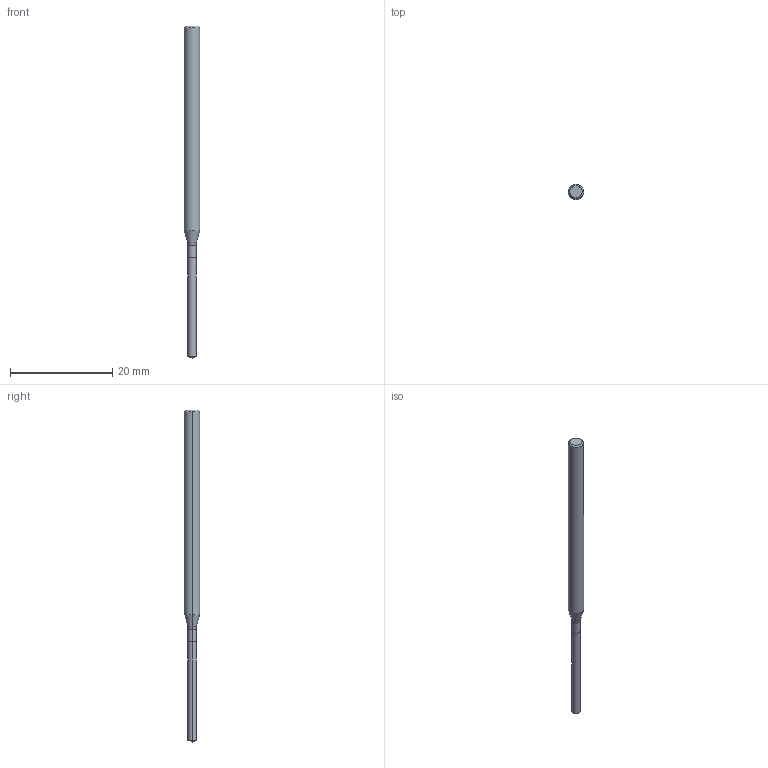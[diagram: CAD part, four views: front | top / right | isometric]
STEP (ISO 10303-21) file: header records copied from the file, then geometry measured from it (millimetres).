
FILE_DESCRIPTION (( 'STEP AP214' ), '1' );
FILE_NAME ('754.016.00_3D-model.step', '2023-08-21T11:30:34', ( '' ), ( '' ), 'SwSTEP 2.0', 'SolidWorks 2020', '' );
FILE_SCHEMA (( 'AUTOMOTIVE_DESIGN' ));
Length unit declared in the file: millimetre
Products named in the file (3): NOCUT-3D^Baugr7; CUT-3D^Baugr7; 754.016.00_3D-model
Assembly tree (2 placements, depth 2):
  754.016.00_3D-model
    CUT-3D^Baugr7
    NOCUT-3D^Baugr7
Bounding box: 3 x 3 x 65 mm (x, y, z)
Volume: 338.8 mm3; surface area: 519.6 mm2
Topology: 2 solids, 2 shells, 17 faces, 32 edges, 17 vertices
Faces by surface type: cone 6, cylinder 6, plane 3, torus 2
Entity records: 532 total; most frequent: DIRECTION 98, CARTESIAN_POINT 72, ORIENTED_EDGE 60, AXIS2_PLACEMENT_3D 43, EDGE_CURVE 30, CIRCLE 18, EDGE_LOOP 17, FACE_OUTER_BOUND 17
